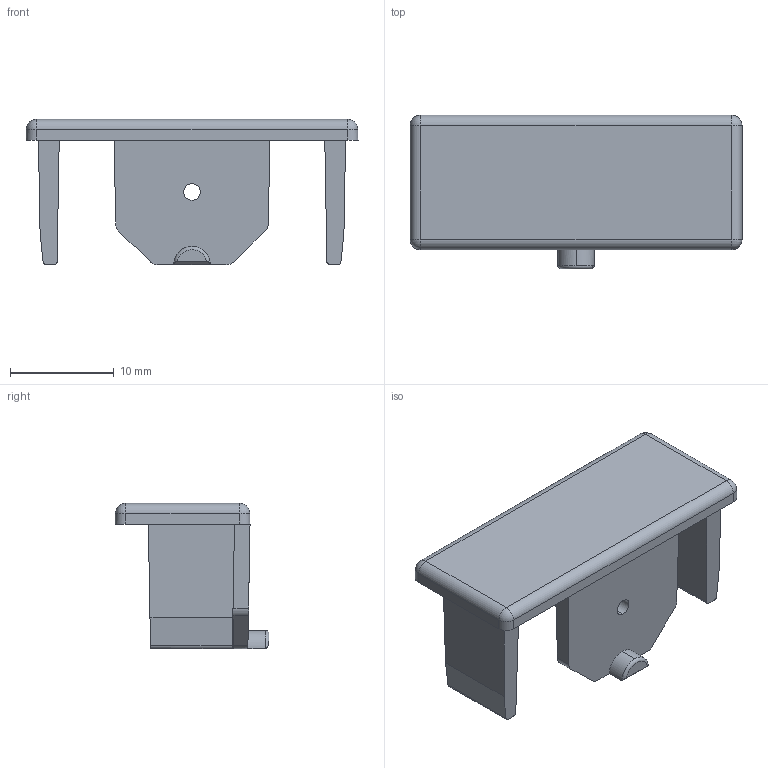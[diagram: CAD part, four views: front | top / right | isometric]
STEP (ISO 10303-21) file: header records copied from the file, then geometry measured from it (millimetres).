
FILE_DESCRIPTION((''),'2;1');
FILE_NAME('16207849_ACL-ENDCAP-LENS-PSF','2018-10-01T13:12:13',('bernhard.fink'),(''),'CREO PARAMETRIC BY PTC INC, 2017380','CREO PARAMETRIC BY PTC INC, 2017380','');
FILE_SCHEMA(('AUTOMOTIVE_DESIGN { 1 0 10303 214 1 1 1 1 }'));
Length unit declared in the file: millimetre
Products named in the file (1): 16207849_ACL-ENDCAP-LENS-PSF
Bounding box: 32 x 14.82 x 14 mm (x, y, z)
Volume: 1421.4 mm3; surface area: 1800.1 mm2
Topology: 1 solids, 1 shells, 52 faces, 132 edges, 80 vertices
Faces by surface type: plane 27, cylinder 20, sphere 4, bspline 1
Entity records: 2497 total; most frequent: CARTESIAN_POINT 487, ORIENTED_EDGE 256, DIRECTION 211, PRESENTATION_STYLE_ASSIGNMENT 129, STYLED_ITEM 129, CURVE_STYLE 128, EDGE_CURVE 128, VECTOR 85
